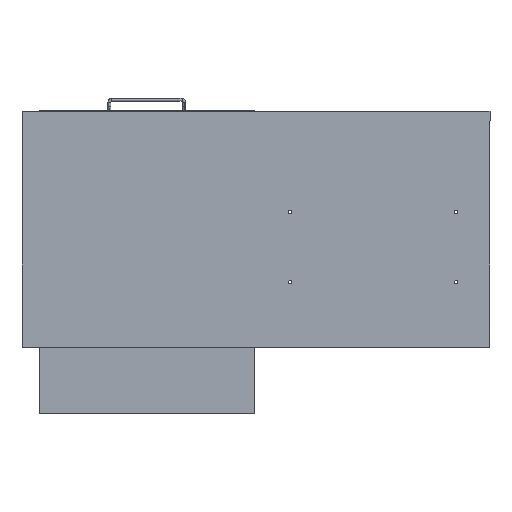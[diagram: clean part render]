
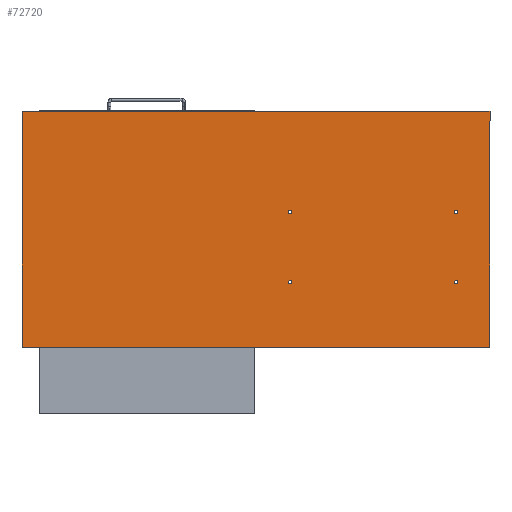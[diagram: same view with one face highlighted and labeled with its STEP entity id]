
A CAD part, front view. The second image highlights one B-rep face of the part: STEP entity #72720.
In plain terms, the highlighted planar face has unit normal (0, -1, 0).
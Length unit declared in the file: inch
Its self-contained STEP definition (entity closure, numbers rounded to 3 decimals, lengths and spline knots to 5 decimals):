
#926 = CIRCLE ( 'NONE', #30137, 0.172 ) ;
#972 = VERTEX_POINT ( 'NONE', #65762 ) ;
#1204 = CIRCLE ( 'NONE', #38712, 0.172 ) ;
#1576 = ORIENTED_EDGE ( 'NONE', *, *, #85658, .F. ) ;
#1805 = AXIS2_PLACEMENT_3D ( 'NONE', #44965, #5368, #51480 ) ;
#2649 = AXIS2_PLACEMENT_3D ( 'NONE', #42008, #75053, #8501 ) ;
#3246 = LINE ( 'NONE', #30232, #30840 ) ;
#4115 = LINE ( 'NONE', #35914, #14540 ) ;
#4943 = FACE_BOUND ( 'NONE', #42397, .T. ) ;
#5368 = DIRECTION ( 'NONE',  ( 0., 1., 0. ) ) ;
#8246 = CIRCLE ( 'NONE', #2649, 0.172 ) ;
#8271 = EDGE_CURVE ( 'NONE', #14082, #9275, #10465, .T. ) ;
#8501 = DIRECTION ( 'NONE',  ( 0., 0., 1. ) ) ;
#8759 = DIRECTION ( 'NONE',  ( 0., -1., 0. ) ) ;
#9275 = VERTEX_POINT ( 'NONE', #66284 ) ;
#9413 = EDGE_CURVE ( 'NONE', #30051, #37868, #14944, .T. ) ;
#9684 = ORIENTED_EDGE ( 'NONE', *, *, #32262, .F. ) ;
#10465 = CIRCLE ( 'NONE', #17421, 0.172 ) ;
#11197 = VERTEX_POINT ( 'NONE', #77023 ) ;
#12255 = ORIENTED_EDGE ( 'NONE', *, *, #29033, .F. ) ;
#13167 = CARTESIAN_POINT ( 'NONE',  ( -3.6532, -3.56409, 5.6432 ) ) ;
#13496 = CARTESIAN_POINT ( 'NONE',  ( -3.6532, -3.56409, -1.6848 ) ) ;
#13631 = AXIS2_PLACEMENT_3D ( 'NONE', #30664, #24997, #50654 ) ;
#14082 = VERTEX_POINT ( 'NONE', #56515 ) ;
#14500 = ORIENTED_EDGE ( 'NONE', *, *, #48257, .F. ) ;
#14540 = VECTOR ( 'NONE', #30255, 39.37008 ) ;
#14944 = LINE ( 'NONE', #68000, #64774 ) ;
#16180 = EDGE_CURVE ( 'NONE', #70644, #68323, #8246, .T. ) ;
#16583 = CARTESIAN_POINT ( 'NONE',  ( -3.6532, -3.56409, -1.8568 ) ) ;
#17143 = DIRECTION ( 'NONE',  ( 0., -1., 0. ) ) ;
#17421 = AXIS2_PLACEMENT_3D ( 'NONE', #13167, #27499, #27080 ) ;
#18328 = CIRCLE ( 'NONE', #28088, 0.172 ) ;
#18447 = FACE_BOUND ( 'NONE', #73846, .T. ) ;
#19073 = ORIENTED_EDGE ( 'NONE', *, *, #70898, .F. ) ;
#19375 = VECTOR ( 'NONE', #80136, 39.37008 ) ;
#19723 = CIRCLE ( 'NONE', #30842, 0.172 ) ;
#20244 = DIRECTION ( 'NONE',  ( 0., -1., 0. ) ) ;
#20547 = CARTESIAN_POINT ( 'NONE',  ( 25., -3.56409, -12.597 ) ) ;
#21431 = DIRECTION ( 'NONE',  ( 0., 0., 1. ) ) ;
#24997 = DIRECTION ( 'NONE',  ( 0., -1., 0. ) ) ;
#27080 = DIRECTION ( 'NONE',  ( 0., 0., 1. ) ) ;
#27499 = DIRECTION ( 'NONE',  ( 0., -1., 0. ) ) ;
#27683 = CARTESIAN_POINT ( 'NONE',  ( 25., -3.56409, 12.597 ) ) ;
#27946 = DIRECTION ( 'NONE',  ( 0., -1., 0. ) ) ;
#28088 = AXIS2_PLACEMENT_3D ( 'NONE', #47611, #20244, #46756 ) ;
#29033 = EDGE_CURVE ( 'NONE', #972, #11197, #48379, .T. ) ;
#30051 = VERTEX_POINT ( 'NONE', #27683 ) ;
#30137 = AXIS2_PLACEMENT_3D ( 'NONE', #51890, #17143, #50606 ) ;
#30232 = CARTESIAN_POINT ( 'NONE',  ( -25., -3.56409, 12.597 ) ) ;
#30255 = DIRECTION ( 'NONE',  ( 0., 0., 1. ) ) ;
#30664 = CARTESIAN_POINT ( 'NONE',  ( -21.3782, -3.56409, -1.8568 ) ) ;
#30840 = VECTOR ( 'NONE', #84136, 39.37008 ) ;
#30842 = AXIS2_PLACEMENT_3D ( 'NONE', #69236, #27946, #36613 ) ;
#32262 = EDGE_CURVE ( 'NONE', #48602, #36436, #1204, .T. ) ;
#32361 = FACE_OUTER_BOUND ( 'NONE', #60140, .T. ) ;
#33606 = LINE ( 'NONE', #20547, #19375 ) ;
#34087 = AXIS2_PLACEMENT_3D ( 'NONE', #60145, #81014, #21431 ) ;
#35914 = CARTESIAN_POINT ( 'NONE',  ( -25., -3.56409, -12.597 ) ) ;
#36195 = CARTESIAN_POINT ( 'NONE',  ( -21.3782, -3.56409, 5.8152 ) ) ;
#36436 = VERTEX_POINT ( 'NONE', #68050 ) ;
#36613 = DIRECTION ( 'NONE',  ( 0., 0., 1. ) ) ;
#36782 = EDGE_CURVE ( 'NONE', #68323, #70644, #19723, .T. ) ;
#37868 = VERTEX_POINT ( 'NONE', #62917 ) ;
#38712 = AXIS2_PLACEMENT_3D ( 'NONE', #16583, #8759, #75748 ) ;
#40715 = CARTESIAN_POINT ( 'NONE',  ( -21.3782, -3.56409, 5.4712 ) ) ;
#41043 = ORIENTED_EDGE ( 'NONE', *, *, #59527, .F. ) ;
#41090 = ORIENTED_EDGE ( 'NONE', *, *, #9413, .F. ) ;
#42008 = CARTESIAN_POINT ( 'NONE',  ( -21.3782, -3.56409, 5.6432 ) ) ;
#42397 = EDGE_LOOP ( 'NONE', ( #61220, #12255 ) ) ;
#43706 = EDGE_CURVE ( 'NONE', #11197, #972, #926, .T. ) ;
#44965 = CARTESIAN_POINT ( 'NONE',  ( 0., -3.56409, 0. ) ) ;
#45858 = CARTESIAN_POINT ( 'NONE',  ( -25., -3.56409, 12.597 ) ) ;
#46756 = DIRECTION ( 'NONE',  ( 0., 0., 1. ) ) ;
#47611 = CARTESIAN_POINT ( 'NONE',  ( -3.6532, -3.56409, 5.6432 ) ) ;
#48257 = EDGE_CURVE ( 'NONE', #37868, #48986, #33606, .T. ) ;
#48379 = CIRCLE ( 'NONE', #13631, 0.172 ) ;
#48602 = VERTEX_POINT ( 'NONE', #13496 ) ;
#48986 = VERTEX_POINT ( 'NONE', #54236 ) ;
#49195 = EDGE_LOOP ( 'NONE', ( #78912, #59361 ) ) ;
#50606 = DIRECTION ( 'NONE',  ( 0., 0., 1. ) ) ;
#50654 = DIRECTION ( 'NONE',  ( 0., 0., 1. ) ) ;
#50808 = ORIENTED_EDGE ( 'NONE', *, *, #36782, .F. ) ;
#51480 = DIRECTION ( 'NONE',  ( 0., 0., 1. ) ) ;
#51890 = CARTESIAN_POINT ( 'NONE',  ( -21.3782, -3.56409, -1.8568 ) ) ;
#54236 = CARTESIAN_POINT ( 'NONE',  ( -25., -3.56409, -12.597 ) ) ;
#54650 = EDGE_CURVE ( 'NONE', #9275, #14082, #18328, .T. ) ;
#54937 = DIRECTION ( 'NONE',  ( 0., 0., -1. ) ) ;
#56515 = CARTESIAN_POINT ( 'NONE',  ( -3.6532, -3.56409, 5.4712 ) ) ;
#59361 = ORIENTED_EDGE ( 'NONE', *, *, #8271, .F. ) ;
#59527 = EDGE_CURVE ( 'NONE', #48986, #81895, #4115, .T. ) ;
#60140 = EDGE_LOOP ( 'NONE', ( #41090, #19073, #41043, #14500 ) ) ;
#60145 = CARTESIAN_POINT ( 'NONE',  ( -3.6532, -3.56409, -1.8568 ) ) ;
#61220 = ORIENTED_EDGE ( 'NONE', *, *, #43706, .F. ) ;
#62917 = CARTESIAN_POINT ( 'NONE',  ( 25., -3.56409, -12.597 ) ) ;
#63433 = CIRCLE ( 'NONE', #34087, 0.172 ) ;
#64774 = VECTOR ( 'NONE', #54937, 39.37008 ) ;
#65762 = CARTESIAN_POINT ( 'NONE',  ( -21.3782, -3.56409, -2.0288 ) ) ;
#66284 = CARTESIAN_POINT ( 'NONE',  ( -3.6532, -3.56409, 5.8152 ) ) ;
#68000 = CARTESIAN_POINT ( 'NONE',  ( 25., -3.56409, 12.597 ) ) ;
#68050 = CARTESIAN_POINT ( 'NONE',  ( -3.6532, -3.56409, -2.0288 ) ) ;
#68323 = VERTEX_POINT ( 'NONE', #36195 ) ;
#69236 = CARTESIAN_POINT ( 'NONE',  ( -21.3782, -3.56409, 5.6432 ) ) ;
#69907 = EDGE_LOOP ( 'NONE', ( #50808, #80915 ) ) ;
#70644 = VERTEX_POINT ( 'NONE', #40715 ) ;
#70898 = EDGE_CURVE ( 'NONE', #81895, #30051, #3246, .T. ) ;
#71088 = FACE_BOUND ( 'NONE', #69907, .T. ) ;
#71938 = FACE_BOUND ( 'NONE', #49195, .T. ) ;
#72720 = ADVANCED_FACE ( 'NONE', ( #4943, #18447, #71938, #71088, #32361 ), #83688, .F. ) ;
#73846 = EDGE_LOOP ( 'NONE', ( #9684, #1576 ) ) ;
#75053 = DIRECTION ( 'NONE',  ( 0., -1., 0. ) ) ;
#75748 = DIRECTION ( 'NONE',  ( 0., 0., 1. ) ) ;
#77023 = CARTESIAN_POINT ( 'NONE',  ( -21.3782, -3.56409, -1.6848 ) ) ;
#78912 = ORIENTED_EDGE ( 'NONE', *, *, #54650, .F. ) ;
#80136 = DIRECTION ( 'NONE',  ( -1., 0., 0. ) ) ;
#80915 = ORIENTED_EDGE ( 'NONE', *, *, #16180, .F. ) ;
#81014 = DIRECTION ( 'NONE',  ( 0., -1., 0. ) ) ;
#81895 = VERTEX_POINT ( 'NONE', #45858 ) ;
#83688 = PLANE ( 'NONE',  #1805 ) ;
#84136 = DIRECTION ( 'NONE',  ( 1., 0., 0. ) ) ;
#85658 = EDGE_CURVE ( 'NONE', #36436, #48602, #63433, .T. ) ;
